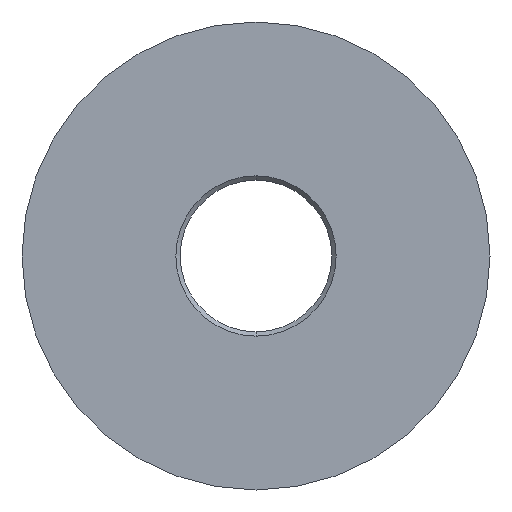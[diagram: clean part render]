
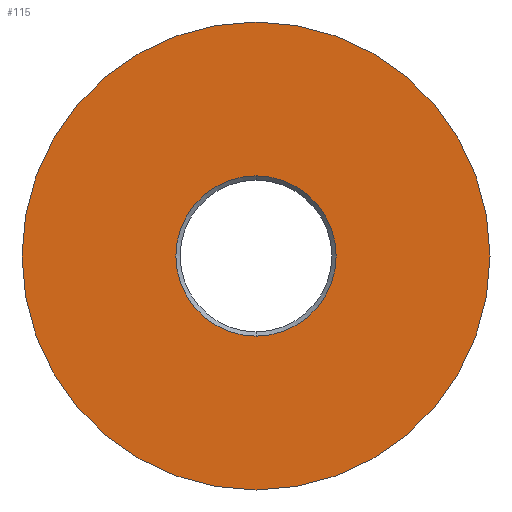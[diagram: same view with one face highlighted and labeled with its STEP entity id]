
A CAD part, front view. The second image highlights one B-rep face of the part: STEP entity #115.
In plain terms, the highlighted planar face has unit normal (0, -1, 0).
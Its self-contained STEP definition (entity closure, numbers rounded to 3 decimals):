
#48 = VERTEX_POINT ( 'NONE', #365 ) ;
#67 = DIRECTION ( 'NONE',  ( 0., 0., -1. ) ) ;
#76 = AXIS2_PLACEMENT_3D ( 'NONE', #225, #421, #532 ) ;
#84 = CIRCLE ( 'NONE', #89, 27.01 ) ;
#88 = DIRECTION ( 'NONE',  ( 0., -1., 0. ) ) ;
#89 = AXIS2_PLACEMENT_3D ( 'NONE', #196, #467, #378 ) ;
#96 = CARTESIAN_POINT ( 'NONE',  ( 0., 0., 0. ) ) ;
#114 = VERTEX_POINT ( 'NONE', #223 ) ;
#115 = ADVANCED_FACE ( 'NONE', ( #498, #327 ), #485, .T. ) ;
#122 = DIRECTION ( 'NONE',  ( 0., 1., 0. ) ) ;
#131 = EDGE_CURVE ( 'NONE', #343, #254, #192, .T. ) ;
#141 = EDGE_CURVE ( 'NONE', #254, #343, #84, .T. ) ;
#177 = AXIS2_PLACEMENT_3D ( 'NONE', #429, #246, #67 ) ;
#184 = CIRCLE ( 'NONE', #560, 9.25 ) ;
#190 = CARTESIAN_POINT ( 'NONE',  ( 0., 0., -27.01 ) ) ;
#192 = CIRCLE ( 'NONE', #177, 27.01 ) ;
#196 = CARTESIAN_POINT ( 'NONE',  ( 0., 0., 0. ) ) ;
#209 = CIRCLE ( 'NONE', #76, 9.25 ) ;
#218 = CARTESIAN_POINT ( 'NONE',  ( 27.01, 0., 0. ) ) ;
#223 = CARTESIAN_POINT ( 'NONE',  ( 0., 0., -9.25 ) ) ;
#225 = CARTESIAN_POINT ( 'NONE',  ( 0., 0., 0. ) ) ;
#246 = DIRECTION ( 'NONE',  ( 0., -1., 0. ) ) ;
#254 = VERTEX_POINT ( 'NONE', #190 ) ;
#287 = AXIS2_PLACEMENT_3D ( 'NONE', #218, #88, #325 ) ;
#325 = DIRECTION ( 'NONE',  ( 0., 0., -1. ) ) ;
#327 = FACE_OUTER_BOUND ( 'NONE', #444, .T. ) ;
#337 = EDGE_CURVE ( 'NONE', #48, #114, #184, .T. ) ;
#343 = VERTEX_POINT ( 'NONE', #548 ) ;
#365 = CARTESIAN_POINT ( 'NONE',  ( 0., 0., 9.25 ) ) ;
#378 = DIRECTION ( 'NONE',  ( 0., 0., -1. ) ) ;
#406 = ORIENTED_EDGE ( 'NONE', *, *, #131, .T. ) ;
#409 = ORIENTED_EDGE ( 'NONE', *, *, #337, .T. ) ;
#421 = DIRECTION ( 'NONE',  ( 0., 1., 0. ) ) ;
#422 = ORIENTED_EDGE ( 'NONE', *, *, #141, .T. ) ;
#429 = CARTESIAN_POINT ( 'NONE',  ( 0., 0., 0. ) ) ;
#444 = EDGE_LOOP ( 'NONE', ( #422, #406 ) ) ;
#457 = DIRECTION ( 'NONE',  ( 0., 0., -1. ) ) ;
#467 = DIRECTION ( 'NONE',  ( 0., -1., 0. ) ) ;
#470 = EDGE_CURVE ( 'NONE', #114, #48, #209, .T. ) ;
#485 = PLANE ( 'NONE',  #287 ) ;
#498 = FACE_BOUND ( 'NONE', #565, .T. ) ;
#532 = DIRECTION ( 'NONE',  ( 0., 0., -1. ) ) ;
#548 = CARTESIAN_POINT ( 'NONE',  ( 0., 0., 27.01 ) ) ;
#552 = ORIENTED_EDGE ( 'NONE', *, *, #470, .T. ) ;
#560 = AXIS2_PLACEMENT_3D ( 'NONE', #96, #122, #457 ) ;
#565 = EDGE_LOOP ( 'NONE', ( #552, #409 ) ) ;
